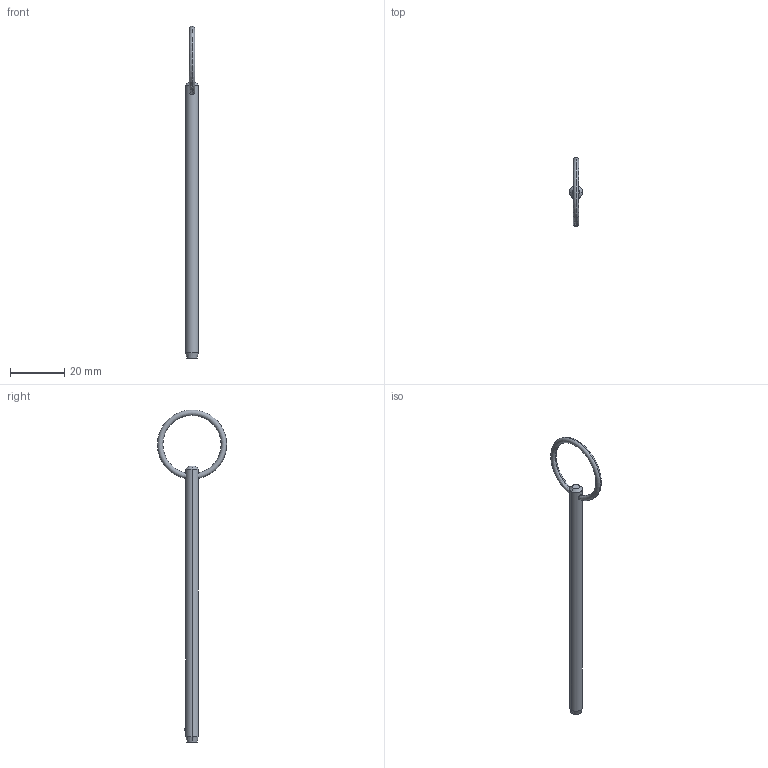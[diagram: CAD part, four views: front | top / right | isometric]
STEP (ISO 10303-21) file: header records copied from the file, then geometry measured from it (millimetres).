
FILE_DESCRIPTION (( 'STEP AP203' ), '1' );
FILE_NAME ('P1250.018-360.step', '2019-07-29T19:36:53', ( '' ), ( '' ), 'SwSTEP 2.0', 'SolidWorks 2017', '' );
FILE_SCHEMA (( 'CONFIG_CONTROL_DESIGN' ));
Length unit declared in the file: millimetre
Products named in the file (1): P1250.018-360
Bounding box: 4.76 x 25.4 x 121.88 mm (x, y, z)
Volume: 2003.8 mm3; surface area: 1956.8 mm2
Topology: 1 solids, 1 shells, 12 faces, 28 edges, 17 vertices
Faces by surface type: cone 4, torus 2, sphere 2, cylinder 2, plane 2
Entity records: 471 total; most frequent: CARTESIAN_POINT 138, DIRECTION 56, ORIENTED_EDGE 48, AXIS2_PLACEMENT_3D 25, EDGE_CURVE 24, EDGE_LOOP 15, VERTEX_POINT 15, FACE_OUTER_BOUND 12
